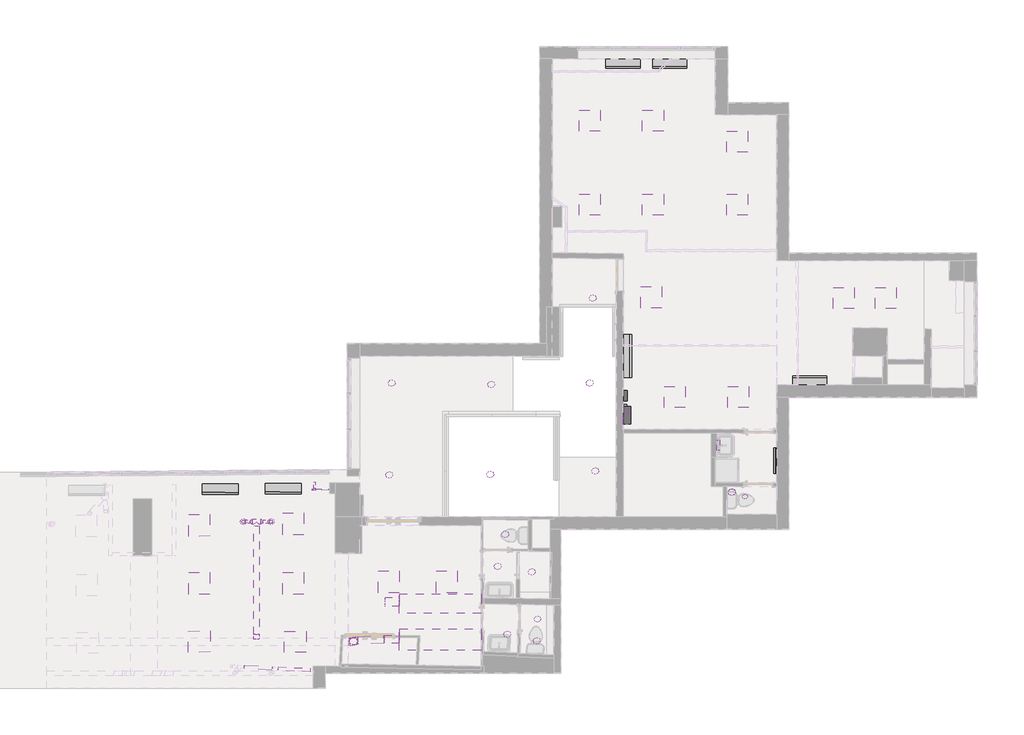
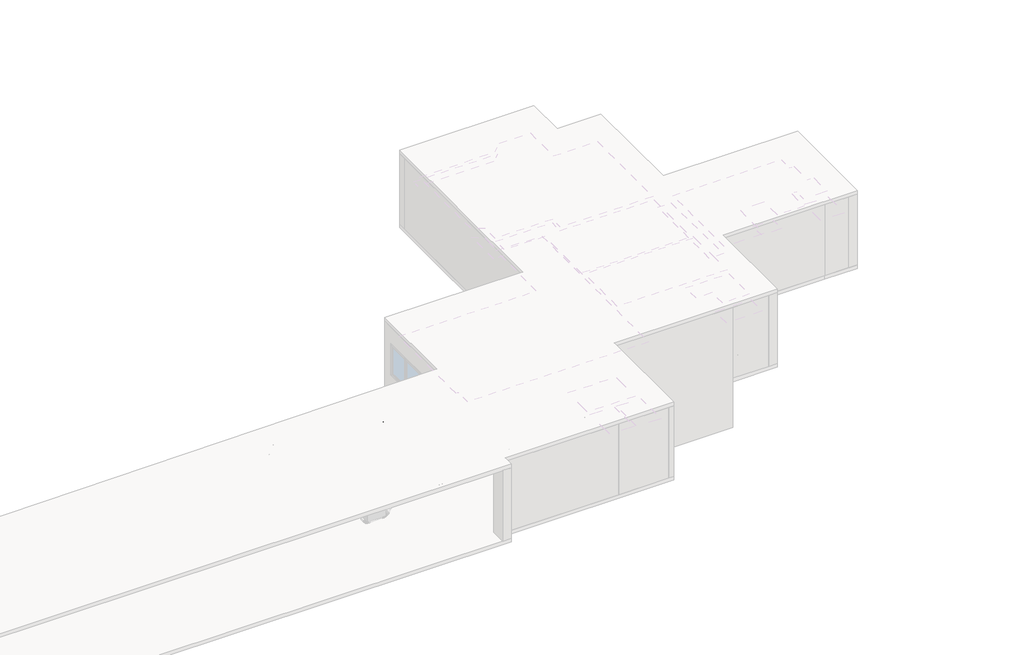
# One storey, part 8 of 8: 33 light fixtures, 11 duct fittings, 11 duct segments, 11 proxies, 5 pipe segments, 4 air terminals, 3 cable carrier segments, 1 pipe fitting.
"""IFC4 building model written with IfcOpenShell, lengths in millimetres."""

from ifc_helpers import new_model, si_unit, point, frame, frame_2d, origin, origin_with_axes, place, context, project, spatial, polyline, circle_curve, trimmed, segment, composite_curve, outline, extrude, transform, mapped, element, save
from components import air_terminal_3114c91a, air_terminal_94ab58d3, control_panel_control_panel_5b8699bc, control_panel_control_panel_d1b1cf04, control_panel_control_panel_d727b30a, control_panel_control_panel_2601ea38, proxy_125e8d1e, proxy_d10d1fc8, proxy_9773a5b9, proxy_5922f459, round_elbow_0_55_d_35647d84, round_elbow_0_55_d_550099a1, round_elbow_0_55_d_1c0d1807, round_elbow_0_55_d_5d434363, round_takeoff_standard_d0146e83, round_tee_standard_f7545f24, round_transition_length_standard_e66f7e9a, round_to_rectangular_transition_length_standard_5e19dc24, round_to_rectangular_transition_length_standard_a5040807, light_fixture_2_x2_2_lamp_120v_fb7acc95, light_fixture_654b8648, light_fixture_66915e3b, pendant_lighting_fixture_1x4_120v_cc67f8e6, pendant_lighting_fixture_1x4_120v_e23382af, pendant_lighting_fixture_1x4_120v_91103dd0, pendant_lighting_fixture_1x4_120v_f6e95e0c, pendant_lighting_fixture_1x4_120v_97e50c7d, strip_lighting_fixtures_4_1_lamp_120_3e8fa4b9, tee_generic_standard_3c2e5b31

model = new_model("IFC4")

# Units and contexts
model_context = context("Model", 3, world=origin())
ifc_project = project(units=[si_unit("LENGTHUNIT", "METRE", prefix="MILLI")], contexts=[model_context])

# Site, building, storey
site = spatial("IfcSite", under=ifc_project)
building = spatial("IfcBuilding", under=site)
storey = spatial("IfcBuildingStorey", under=building, Name="GFL", Elevation=0.0)

# Air terminals
placement = place(None, origin())
air_terminal_shape = air_terminal_3114c91a(model_context)
element("IfcAirTerminal", 1, ObjectType="Supply Diffuser - Circular - Round Neck - Ceiling Mounted : 6\" Face 4\" Neck", at=placement, inside=storey, context=model_context, shape_type="MappedRepresentation", body=[
    mapped(air_terminal_shape, transform((-21328.2848502, 5811.9921507, 2644.8917846), x_axis=(-1.0, 0.0, 0.0), y_axis=(0.0, 1.0, 0.0), z_axis=(0.0, 0.0, -1.0))),
])
element("IfcAirTerminal", 2, ObjectType="Supply Diffuser - Circular - Round Neck - Ceiling Mounted : 6\" Face 4\" Neck", at=placement, inside=storey, context=model_context, shape_type="MappedRepresentation", body=[
    mapped(air_terminal_shape, transform((-22122.0348502, 5811.9921507, 2625.8417846), x_axis=(-1.0, 0.0, 0.0), y_axis=(0.0, 1.0, 0.0), z_axis=(0.0, 0.0, -1.0))),
])
element("IfcAirTerminal", 3, ObjectType="Supply Diffuser - Circular - Round Neck - Ceiling Mounted : 6\" Face 4\" Neck", at=placement, inside=storey, context=model_context, shape_type="MappedRepresentation", body=[
    mapped(air_terminal_shape, transform((-13605.2135505, 2991.6837781, 2216.15), x_axis=(1.0, 0.0, 0.0), y_axis=(0.0, -1.0, 0.0), z_axis=(0.0, 0.0, -1.0))),
])
air_terminal_2_shape = air_terminal_94ab58d3(model_context)
element("IfcAirTerminal", 4, ObjectType="Supply Diffuser - Circular - Round Neck - Ceiling Mounted : 8\" Face 6\" Neck", at=placement, inside=storey, context=model_context, shape_type="MappedRepresentation", body=[
    mapped(air_terminal_2_shape, transform((-7978.3227955, 6669.4585448, 2101.85), x_axis=(1.0, 0.0, 0.0), y_axis=(0.0, -1.0, 0.0), z_axis=(0.0, 0.0, -1.0))),
])

# Proxies
control_panel_control_panel_shape = control_panel_control_panel_5b8699bc(model_context)
element("IfcBuildingElementProxy", 5, Name="Control Panel : Control Panel", ObjectType="Control Panel : Control Panel", at=placement, inside=storey, context=model_context, shape_type="MappedRepresentation", body=[
    mapped(control_panel_control_panel_shape, transform((-11129.9527068, 8902.2771063, 1236.3031897), x_axis=(0.0, 1.0, 0.0), y_axis=(0.0, 0.0, 1.0), z_axis=(1.0, 0.0, 0.0))),
])
control_panel_control_panel_2_shape = control_panel_control_panel_d1b1cf04(model_context)
element("IfcBuildingElementProxy", 6, Name="Control Panel : Control Panel", ObjectType="Control Panel : Control Panel", at=placement, inside=storey, context=model_context, shape_type="MappedRepresentation", body=[
    mapped(control_panel_control_panel_2_shape, transform((-11129.9527068, 8885.6782427, 1755.1708937), x_axis=(0.0, 1.0, 0.0), y_axis=(0.0, 0.0, 1.0), z_axis=(1.0, 0.0, 0.0))),
])
control_panel_control_panel_3_shape = control_panel_control_panel_d727b30a(model_context)
element("IfcBuildingElementProxy", 7, Name="Control Panel : Control Panel", ObjectType="Control Panel : Control Panel", at=placement, inside=storey, context=model_context, shape_type="MappedRepresentation", body=[
    mapped(control_panel_control_panel_3_shape, transform((-11129.9527068, 9124.3266247, 710.7804538), x_axis=(0.0, 1.0, 0.0), y_axis=(0.0, 0.0, 1.0), z_axis=(1.0, 0.0, 0.0))),
])
control_panel_control_panel_4_shape = control_panel_control_panel_2601ea38(model_context)
element("IfcBuildingElementProxy", 8, Name="Control Panel : Control Panel", ObjectType="Control Panel : Control Panel", at=placement, inside=storey, context=model_context, shape_type="MappedRepresentation", body=[
    mapped(control_panel_control_panel_4_shape, transform((-11129.9527068, 8710.9317299, 754.9987498), x_axis=(0.0, 1.0, 0.0), y_axis=(0.0, 0.0, 1.0), z_axis=(1.0, 0.0, 0.0))),
])
proxy_shape = proxy_125e8d1e(model_context)
element("IfcBuildingElementProxy", 9, Name="Radiator - Hydronic Fin Tube : 0-1/4\" NPT", ObjectType="Radiator - Hydronic Fin Tube : 0-1/4\" NPT", at=placement, inside=storey, context=model_context, shape_type="MappedRepresentation", body=[
    mapped(proxy_shape, transform((-5298.6227955, 9591.4950658, -304.8), x_axis=(1.0, 0.0, 0.0), y_axis=(0.0, 1.0, 0.0), z_axis=(0.0, 0.0, 1.0))),
])
element("IfcBuildingElementProxy", 10, Name="Radiator - Hydronic Fin Tube : 0-1/4\" NPT", ObjectType="Radiator - Hydronic Fin Tube : 0-1/4\" NPT", at=placement, inside=storey, context=model_context, shape_type="MappedRepresentation", body=[
    mapped(proxy_shape, transform((-10198.286381, 19408.1973103, -304.8), x_axis=(-1.0, 0.0, 0.0), y_axis=(0.0, -1.0, 0.0), z_axis=(0.0, 0.0, 1.0))),
])
element("IfcBuildingElementProxy", 11, Name="Radiator - Hydronic Fin Tube : 0-1/4\" NPT", ObjectType="Radiator - Hydronic Fin Tube : 0-1/4\" NPT", at=placement, inside=storey, context=model_context, shape_type="MappedRepresentation", body=[
    mapped(proxy_shape, transform((-11548.9291902, 19408.1973103, -304.8), x_axis=(-1.0, 0.0, 0.0), y_axis=(0.0, -1.0, 0.0), z_axis=(0.0, 0.0, 1.0))),
])
proxy_2_shape = proxy_d10d1fc8(model_context)
element("IfcBuildingElementProxy", 12, Name="Radiator - Hydronic Fin Tube : 0-1/6\" NPT", ObjectType="Radiator - Hydronic Fin Tube : 0-1/6\" NPT", at=placement, inside=storey, context=model_context, shape_type="MappedRepresentation", body=[
    mapped(proxy_2_shape, transform((-6505.1227955, 8127.0610317, -304.8), x_axis=(0.0, 1.0, 0.0), y_axis=(-1.0, 0.0, 0.0), z_axis=(0.0, 0.0, 1.0))),
])
proxy_3_shape = proxy_9773a5b9(model_context)
element("IfcBuildingElementProxy", 13, Name="Radiator - Hydronic Fin Tube : 0-3/4\" NPT", ObjectType="Radiator - Hydronic Fin Tube : 0-3/4\" NPT", at=placement, inside=storey, context=model_context, shape_type="MappedRepresentation", body=[
    mapped(proxy_3_shape, transform((-23196.4464876, 7100.1845836, -304.8), x_axis=(-0.9999588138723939, -0.009075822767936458, 0.0), y_axis=(0.009075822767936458, -0.9999588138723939, 0.0), z_axis=(0.0, 0.0, 1.0))),
])
element("IfcBuildingElementProxy", 14, Name="Radiator - Hydronic Fin Tube : 0-3/4\" NPT", ObjectType="Radiator - Hydronic Fin Tube : 0-3/4\" NPT", at=placement, inside=storey, context=model_context, shape_type="MappedRepresentation", body=[
    mapped(proxy_3_shape, transform((-21373.5403035, 7116.7296385, -304.8), x_axis=(-0.9999588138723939, -0.009075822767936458, 0.0), y_axis=(0.009075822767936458, -0.9999588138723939, 0.0), z_axis=(0.0, 0.0, 1.0))),
])
proxy_4_shape = proxy_5922f459(model_context)
element("IfcBuildingElementProxy", 15, Name="Radiator - Hydronic Fin Tube : 0-3/8\" NPT", ObjectType="Radiator - Hydronic Fin Tube : 0-3/8\" NPT", at=placement, inside=storey, context=model_context, shape_type="MappedRepresentation", body=[
    mapped(proxy_4_shape, transform((-11231.5527068, 10319.9857327, -304.8), x_axis=(0.0, -1.0, 0.0), y_axis=(1.0, 0.0, 0.0), z_axis=(0.0, 0.0, 1.0))),
])

# Cable carrier segments
element("IfcCableCarrierSegment", 16, ObjectType="Channel Cable Tray", at=placement, inside=storey, context=model_context, shape_type="SweptSolid", body=[
    extrude(outline(polyline([(-11079.1527068, 8800.8314072), (-11129.9527068, 8800.8314072), (-11129.9527068, 9029.4314072), (-11079.1527068, 9029.4314072), (-11079.1527068, 8800.8314072)])), frame((0.0, 0.0, 1983.7708937), z_axis=(0.0, 0.0, 1.0), x_axis=(1.0, 0.0, 0.0)), (0.0, 0.0, 1.0), 384.7791063),
])
element("IfcCableCarrierSegment", 17, ObjectType="Channel Cable Tray", at=placement, inside=storey, context=model_context, shape_type="SweptSolid", body=[
    extrude(outline(polyline([(-11002.9527068, 9310.3357327), (-11129.9527068, 9310.3357327), (-11129.9527068, 9615.1357327), (-11002.9527068, 9615.1357327), (-11002.9527068, 9310.3357327)])), frame((0.0, 0.0, -53.8960381), z_axis=(0.0, 0.0, 1.0), x_axis=(1.0, 0.0, 0.0)), (0.0, 0.0, 1.0), 2422.4460381),
])
element("IfcCableCarrierSegment", 18, ObjectType="Channel Cable Tray", at=placement, inside=storey, context=model_context, shape_type="SweptSolid", body=[
    extrude(outline(polyline([(-11079.1527068, 8800.8314072), (-11129.9527068, 8800.8314072), (-11129.9527068, 9029.4314072), (-11079.1527068, 9029.4314072), (-11079.1527068, 8800.8314072)])), origin_with_axes(), (0.0, 0.0, 1.0), 956.9031897),
])

# Duct fittings
round_elbow_0_55_d_shape = round_elbow_0_55_d_35647d84(model_context)
element("IfcDuctFitting", 19, ObjectType="Round Elbow : 0.55 D", at=placement, inside=storey, context=model_context, shape_type="MappedRepresentation", body=[
    mapped(round_elbow_0_55_d_shape, transform((-22122.0348502, 5811.9921507, 2890.0792846), x_axis=(-1.0, 0.0, 0.0), y_axis=(0.0, 0.0, -1.0), z_axis=(0.0, -1.0, 0.0))),
])
element("IfcDuctFitting", 20, ObjectType="Round Elbow : 0.55 D", at=placement, inside=storey, context=model_context, shape_type="MappedRepresentation", body=[
    mapped(round_elbow_0_55_d_shape, transform((-21328.2848502, 5811.9921507, 2890.0792846), x_axis=(1.0, 0.0, 0.0), y_axis=(0.0, 0.0, -1.0), z_axis=(0.0, 1.0, 0.0))),
])
round_elbow_0_55_d_2_shape = round_elbow_0_55_d_550099a1(model_context)
element("IfcDuctFitting", 21, ObjectType="Round Elbow : 0.55 D", at=placement, inside=storey, context=model_context, shape_type="MappedRepresentation", body=[
    mapped(round_elbow_0_55_d_2_shape, transform((-18936.6460319, 2329.8696846, 2890.0792846), x_axis=(1.0, 0.0, 0.0), y_axis=(0.0, 0.08715574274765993, -0.9961946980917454), z_axis=(0.0, 0.9961946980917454, 0.08715574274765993))),
])
round_elbow_0_55_d_3_shape = round_elbow_0_55_d_1c0d1807(model_context)
element("IfcDuctFitting", 22, ObjectType="Round Elbow : 0.55 D", at=placement, inside=storey, context=model_context, shape_type="MappedRepresentation", body=[
    mapped(round_elbow_0_55_d_3_shape, transform((-18936.6460319, 2361.9691447, 2523.1807772), x_axis=(0.0, 0.08715574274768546, -0.9961946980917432), y_axis=(0.9986399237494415, 0.05193894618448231, 0.004544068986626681), z_axis=(0.05213734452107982, -0.9948397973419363, -0.08703720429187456))),
])
round_elbow_0_55_d_4_shape = round_elbow_0_55_d_5d434363(model_context)
element("IfcDuctFitting", 23, ObjectType="Round Elbow : 0.55 D", at=placement, inside=storey, context=model_context, shape_type="MappedRepresentation", body=[
    mapped(round_elbow_0_55_d_4_shape, transform((-18048.8643755, 2408.4958098, 2523.1807772), x_axis=(-1.0, 0.0, 0.0), y_axis=(0.0, -1.0, 0.0), z_axis=(0.0, 0.0, 1.0))),
])
round_takeoff_standard_shape = round_takeoff_standard_d0146e83(model_context)
element("IfcDuctFitting", 24, ObjectType="Round Takeoff : Standard", at=placement, inside=storey, context=model_context, shape_type="MappedRepresentation", body=[
    mapped(round_takeoff_standard_shape, transform((-21747.3848502, 2444.1696846, 2890.0792846), x_axis=(0.0, 1.0, 0.0), y_axis=(-1.0, 0.0, 0.0), z_axis=(0.0, 0.0, 1.0))),
])
round_tee_standard_shape = round_tee_standard_f7545f24(model_context)
element("IfcDuctFitting", 25, ObjectType="Round Tee : Standard", at=placement, inside=storey, context=model_context, shape_type="MappedRepresentation", body=[
    mapped(round_tee_standard_shape, transform((-21747.3848502, 5811.9921507, 2890.0792846), x_axis=(1.0, 0.0, 0.0), y_axis=(0.0, 1.0, 0.0), z_axis=(0.0, 0.0, 1.0))),
])
round_transition_length_standard_shape = round_transition_length_standard_e66f7e9a(model_context)
element("IfcDuctFitting", 26, ObjectType="Round Transition - Length : Standard", at=placement, inside=storey, context=model_context, shape_type="MappedRepresentation", body=[
    mapped(round_transition_length_standard_shape, transform((-21874.3848502, 5811.9921507, 2890.0792846), x_axis=(-1.0, 0.0, 0.0), y_axis=(0.0, -1.0, 0.0), z_axis=(0.0, 0.0, 1.0))),
])
element("IfcDuctFitting", 27, ObjectType="Round Transition - Length : Standard", at=placement, inside=storey, context=model_context, shape_type="MappedRepresentation", body=[
    mapped(round_transition_length_standard_shape, transform((-21620.3848502, 5811.9921507, 2890.0792846), x_axis=(1.0, 0.0, 0.0), y_axis=(0.0, 1.0, 0.0), z_axis=(0.0, 0.0, 1.0))),
])
round_to_rectangular_transition_length_standard_shape = round_to_rectangular_transition_length_standard_5e19dc24(model_context)
element("IfcDuctFitting", 28, ObjectType="Round to Rectangular Transition - Length : Standard", at=placement, inside=storey, context=model_context, shape_type="MappedRepresentation", body=[
    mapped(round_to_rectangular_transition_length_standard_shape, transform((-17607.4220196, 2395.7958098, 2510.4807772), x_axis=(-1.0, 0.0, 0.0), y_axis=(0.0, -1.0, 0.0), z_axis=(0.0, 0.0, 1.0))),
])
round_to_rectangular_transition_length_standard_2_shape = round_to_rectangular_transition_length_standard_a5040807(model_context)
element("IfcDuctFitting", 29, ObjectType="Round to Rectangular Transition - Length : Standard", at=placement, inside=storey, context=model_context, shape_type="MappedRepresentation", body=[
    mapped(round_to_rectangular_transition_length_standard_2_shape, transform((-17612.4821759, 3437.1958098, 2504.1307772), x_axis=(-1.0, 0.0, 0.0), y_axis=(0.0, -1.0, 0.0), z_axis=(0.0, 0.0, 1.0))),
])

# Duct segments
element("IfcDuctSegment", 30, ObjectType="Default", at=placement, inside=storey, context=model_context, shape_type="SweptSolid", body=[
    extrude(outline(polyline([(-17607.4220196, 2090.9958098), (-17607.4220196, 2700.5958098), (-15241.7145713, 2700.5958098), (-15241.7145713, 2090.9958098), (-17607.4220196, 2090.9958098)])), frame((0.0, 0.0, 2345.3807772), z_axis=(0.0, 0.0, 1.0), x_axis=(1.0, 0.0, 0.0)), (0.0, 0.0, 1.0), 330.2),
])
element("IfcDuctSegment", 31, ObjectType="Default", at=placement, inside=storey, context=model_context, shape_type="SweptSolid", body=[
    extrude(outline(polyline([(-17612.4821759, 3157.7958098), (-17612.4821759, 3716.5958098), (-15241.7145713, 3716.5958098), (-15241.7145713, 3157.7958098), (-17612.4821759, 3157.7958098)])), frame((0.0, 0.0, 2339.0307772), z_axis=(0.0, 0.0, 1.0), x_axis=(1.0, 0.0, 0.0)), (0.0, 0.0, 1.0), 330.2),
])
element("IfcDuctSegment", 32, ObjectType="Default_Tap", at=placement, inside=storey, context=model_context, shape_type="SweptSolid", body=[
    extrude(outline(composite_curve([segment(trimmed(circle_curve(frame_2d((2890.0792846, -21747.3848502)), 76.2), [point((2890.0792846, -21671.1848502))], [point((2966.2792846, -21747.3848502))], False, "CARTESIAN"), True, "CONTINUOUS"), segment(trimmed(circle_curve(frame_2d((2890.0792846, -21747.3848502)), 76.2), [point((2966.2792846, -21747.3848502))], [point((2890.0792846, -21823.5848502))], False, "CARTESIAN"), True, "CONTINUOUS"), segment(trimmed(circle_curve(frame_2d((2890.0792846, -21747.3848502)), 76.2), [point((2890.0792846, -21823.5848502))], [point((2813.8792846, -21747.3848502))], False, "CARTESIAN"), True, "CONTINUOUS"), segment(trimmed(circle_curve(frame_2d((2890.0792846, -21747.3848502)), 76.2), [point((2813.8792846, -21747.3848502))], [point((2890.0792846, -21671.1848502))], False, "CARTESIAN"), True, "CONTINUOUS")], self_intersect=False)), frame((0.0, 2545.7696846, 0.0), z_axis=(0.0, 1.0, 0.0), x_axis=(0.0, 0.0, 1.0)), (0.0, 0.0, 1.0), 3139.222466),
])
element("IfcDuctSegment", 33, ObjectType="Default_Tap", at=placement, inside=storey, context=model_context, shape_type="SweptSolid", body=[
    extrude(outline(composite_curve([segment(trimmed(circle_curve(frame_2d((5811.9921507, 2890.0792846)), 50.8), [point((5862.7921507, 2890.0792846))], [point((5811.9921507, 2839.2792846))], False, "CARTESIAN"), True, "CONTINUOUS"), segment(trimmed(circle_curve(frame_2d((5811.9921507, 2890.0792846)), 50.8), [point((5811.9921507, 2839.2792846))], [point((5761.1921507, 2890.0792846))], False, "CARTESIAN"), True, "CONTINUOUS"), segment(trimmed(circle_curve(frame_2d((5811.9921507, 2890.0792846)), 50.8), [point((5761.1921507, 2890.0792846))], [point((5811.9921507, 2940.8792846))], False, "CARTESIAN"), True, "CONTINUOUS"), segment(trimmed(circle_curve(frame_2d((5811.9921507, 2890.0792846)), 50.8), [point((5811.9921507, 2940.8792846))], [point((5862.7921507, 2890.0792846))], False, "CARTESIAN"), True, "CONTINUOUS")], self_intersect=False)), frame((-22066.1548502, 0.0, 0.0), z_axis=(1.0, 0.0, 0.0), x_axis=(0.0, 1.0, 0.0)), (0.0, 0.0, 1.0), 140.97),
])
element("IfcDuctSegment", 34, ObjectType="Default_Tap", at=placement, inside=storey, context=model_context, shape_type="SweptSolid", body=[
    extrude(outline(composite_curve([segment(trimmed(circle_curve(frame_2d((-22122.0348502, 5811.9921507)), 50.8), [point((-22122.0348502, 5862.7921507))], [point((-22071.2348502, 5811.9921507))], False, "CARTESIAN"), True, "CONTINUOUS"), segment(trimmed(circle_curve(frame_2d((-22122.0348502, 5811.9921507)), 50.8), [point((-22071.2348502, 5811.9921507))], [point((-22122.0348502, 5761.1921507))], False, "CARTESIAN"), True, "CONTINUOUS"), segment(trimmed(circle_curve(frame_2d((-22122.0348502, 5811.9921507)), 50.8), [point((-22122.0348502, 5761.1921507))], [point((-22172.8348502, 5811.9921507))], False, "CARTESIAN"), True, "CONTINUOUS"), segment(trimmed(circle_curve(frame_2d((-22122.0348502, 5811.9921507)), 50.8), [point((-22172.8348502, 5811.9921507))], [point((-22122.0348502, 5862.7921507))], False, "CARTESIAN"), True, "CONTINUOUS")], self_intersect=False)), frame((0.0, 0.0, 2702.0417846), z_axis=(0.0, 0.0, 1.0), x_axis=(1.0, 0.0, 0.0)), (0.0, 0.0, 1.0), 132.1575),
])
element("IfcDuctSegment", 35, ObjectType="Default_Tap", at=placement, inside=storey, context=model_context, shape_type="SweptSolid", body=[
    extrude(outline(composite_curve([segment(trimmed(circle_curve(frame_2d((0.0, -114.3)), 114.3), [point((114.3, -114.3))], [point((0.0, -228.6))], False, "CARTESIAN"), True, "CONTINUOUS"), segment(trimmed(circle_curve(frame_2d((0.0, -114.3)), 114.3), [point((0.0, -228.6))], [point((-114.3, -114.3))], False, "CARTESIAN"), True, "CONTINUOUS"), segment(trimmed(circle_curve(frame_2d((0.0, -114.3)), 114.3), [point((-114.3, -114.3))], [point((0.0, 0.0))], False, "CARTESIAN"), True, "CONTINUOUS"), segment(trimmed(circle_curve(frame_2d((0.0, -114.3)), 114.3), [point((0.0, 0.0))], [point((114.3, -114.3))], False, "CARTESIAN"), True, "CONTINUOUS")], self_intersect=False)), frame((-18936.6460319, 2464.9259777, 2657.8242153), z_axis=(0.0, -0.08715574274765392, 0.996194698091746), x_axis=(1.0, 0.0, 0.0)), (0.0, 0.0, 1.0), 117.4122002),
])
element("IfcDuctSegment", 36, ObjectType="Default_Tap", at=placement, inside=storey, context=model_context, shape_type="SweptSolid", body=[
    extrude(outline(composite_curve([segment(trimmed(circle_curve(frame_2d((0.0, 114.3)), 114.3), [point((114.3, 114.3))], [point((0.0, 0.0))], False, "CARTESIAN"), True, "CONTINUOUS"), segment(trimmed(circle_curve(frame_2d((0.0, 114.3)), 114.3), [point((0.0, 0.0))], [point((-114.3, 114.3))], False, "CARTESIAN"), True, "CONTINUOUS"), segment(trimmed(circle_curve(frame_2d((0.0, 114.3)), 114.3), [point((-114.3, 114.3))], [point((0.0, 228.6))], False, "CARTESIAN"), True, "CONTINUOUS"), segment(trimmed(circle_curve(frame_2d((0.0, 114.3)), 114.3), [point((0.0, 228.6))], [point((114.3, 114.3))], False, "CARTESIAN"), True, "CONTINUOUS")], self_intersect=False)), frame((-18811.6597565, 2368.5193978, 2637.4807772), z_axis=(0.9986295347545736, 0.05233595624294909, 0.0), x_axis=(0.05233595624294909, -0.9986295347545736, 0.0)), (0.0, 0.0, 1.0), 760.5498442),
])
element("IfcDuctSegment", 37, ObjectType="Default_Tap", at=placement, inside=storey, context=model_context, shape_type="SweptSolid", body=[
    extrude(outline(composite_curve([segment(trimmed(circle_curve(frame_2d((2408.4958098, 2523.1807772)), 114.3), [point((2294.1958098, 2523.1807772))], [point((2408.4958098, 2637.4807772))], False, "CARTESIAN"), True, "CONTINUOUS"), segment(trimmed(circle_curve(frame_2d((2408.4958098, 2523.1807772)), 114.3), [point((2408.4958098, 2637.4807772))], [point((2522.7958098, 2523.1807772))], False, "CARTESIAN"), True, "CONTINUOUS"), segment(trimmed(circle_curve(frame_2d((2408.4958098, 2523.1807772)), 114.3), [point((2522.7958098, 2523.1807772))], [point((2408.4958098, 2408.8807772))], False, "CARTESIAN"), True, "CONTINUOUS"), segment(trimmed(circle_curve(frame_2d((2408.4958098, 2523.1807772)), 114.3), [point((2408.4958098, 2408.8807772))], [point((2294.1958098, 2523.1807772))], False, "CARTESIAN"), True, "CONTINUOUS")], self_intersect=False)), frame((-18045.5720196, 0.0, 0.0), z_axis=(1.0, 0.0, 0.0), x_axis=(0.0, 1.0, 0.0)), (0.0, 0.0, 1.0), 433.0898437),
])
element("IfcDuctSegment", 38, ObjectType="Default_Tap", at=placement, inside=storey, context=model_context, shape_type="SweptSolid", body=[
    extrude(outline(composite_curve([segment(trimmed(circle_curve(frame_2d((3487.9958098, 2478.7307772)), 127.0), [point((3360.9958098, 2478.7307772))], [point((3487.9958098, 2605.7307772))], False, "CARTESIAN"), True, "CONTINUOUS"), segment(trimmed(circle_curve(frame_2d((3487.9958098, 2478.7307772)), 127.0), [point((3487.9958098, 2605.7307772))], [point((3614.9958098, 2478.7307772))], False, "CARTESIAN"), True, "CONTINUOUS"), segment(trimmed(circle_curve(frame_2d((3487.9958098, 2478.7307772)), 127.0), [point((3614.9958098, 2478.7307772))], [point((3487.9958098, 2351.7307772))], False, "CARTESIAN"), True, "CONTINUOUS"), segment(trimmed(circle_curve(frame_2d((3487.9958098, 2478.7307772)), 127.0), [point((3487.9958098, 2351.7307772))], [point((3360.9958098, 2478.7307772))], False, "CARTESIAN"), True, "CONTINUOUS")], self_intersect=False)), frame((-18021.104733, 0.0, 0.0), z_axis=(1.0, 0.0, 0.0), x_axis=(0.0, 1.0, 0.0)), (0.0, 0.0, 1.0), 403.5624009),
])
element("IfcDuctSegment", 39, ObjectType="Default_Tee", at=placement, inside=storey, context=model_context, shape_type="SweptSolid", body=[
    extrude(outline(composite_curve([segment(trimmed(circle_curve(frame_2d((5811.9921507, 2890.0792846)), 50.8), [point((5761.1921507, 2890.0792846))], [point((5811.9921507, 2940.8792846))], False, "CARTESIAN"), True, "CONTINUOUS"), segment(trimmed(circle_curve(frame_2d((5811.9921507, 2890.0792846)), 50.8), [point((5811.9921507, 2940.8792846))], [point((5862.7921507, 2890.0792846))], False, "CARTESIAN"), True, "CONTINUOUS"), segment(trimmed(circle_curve(frame_2d((5811.9921507, 2890.0792846)), 50.8), [point((5862.7921507, 2890.0792846))], [point((5811.9921507, 2839.2792846))], False, "CARTESIAN"), True, "CONTINUOUS"), segment(trimmed(circle_curve(frame_2d((5811.9921507, 2890.0792846)), 50.8), [point((5811.9921507, 2839.2792846))], [point((5761.1921507, 2890.0792846))], False, "CARTESIAN"), True, "CONTINUOUS")], self_intersect=False)), frame((-21569.5848502, 0.0, 0.0), z_axis=(1.0, 0.0, 0.0), x_axis=(0.0, 1.0, 0.0)), (0.0, 0.0, 1.0), 185.42),
])
element("IfcDuctSegment", 40, ObjectType="Default_Tee", at=placement, inside=storey, context=model_context, shape_type="SweptSolid", body=[
    extrude(outline(composite_curve([segment(trimmed(circle_curve(frame_2d((-21328.2848502, 5811.9921507)), 50.8), [point((-21328.2848502, 5862.7921507))], [point((-21277.4848502, 5811.9921507))], False, "CARTESIAN"), True, "CONTINUOUS"), segment(trimmed(circle_curve(frame_2d((-21328.2848502, 5811.9921507)), 50.8), [point((-21277.4848502, 5811.9921507))], [point((-21328.2848502, 5761.1921507))], False, "CARTESIAN"), True, "CONTINUOUS"), segment(trimmed(circle_curve(frame_2d((-21328.2848502, 5811.9921507)), 50.8), [point((-21328.2848502, 5761.1921507))], [point((-21379.0848502, 5811.9921507))], False, "CARTESIAN"), True, "CONTINUOUS"), segment(trimmed(circle_curve(frame_2d((-21328.2848502, 5811.9921507)), 50.8), [point((-21379.0848502, 5811.9921507))], [point((-21328.2848502, 5862.7921507))], False, "CARTESIAN"), True, "CONTINUOUS")], self_intersect=False)), frame((0.0, 0.0, 2721.0917846), z_axis=(0.0, 0.0, 1.0), x_axis=(1.0, 0.0, 0.0)), (0.0, 0.0, 1.0), 113.1075),
])

# Light fixtures
light_fixture_2_x2_2_lamp_120v_shape = light_fixture_2_x2_2_lamp_120v_fb7acc95(model_context)
element("IfcLightFixture", 41, ObjectType="Recessed Volumetric Light : 2'x2'(2 Lamp) - 120V", at=placement, inside=storey, context=model_context, shape_type="MappedRepresentation", body=[
    mapped(light_fixture_2_x2_2_lamp_120v_shape, transform((-12090.586381, 17137.3915215, 2349.5), x_axis=(1.0, 0.0, 0.0), y_axis=(0.0, -1.0, 0.0), z_axis=(0.0, 0.0, -1.0))),
])
element("IfcLightFixture", 42, ObjectType="Recessed Volumetric Light : 2'x2'(2 Lamp) - 120V", at=placement, inside=storey, context=model_context, shape_type="MappedRepresentation", body=[
    mapped(light_fixture_2_x2_2_lamp_120v_shape, transform((-10261.786381, 17137.3915215, 2349.5), x_axis=(1.0, 0.0, 0.0), y_axis=(0.0, -1.0, 0.0), z_axis=(0.0, 0.0, -1.0))),
])
element("IfcLightFixture", 43, ObjectType="Recessed Volumetric Light : 2'x2'(2 Lamp) - 120V", at=placement, inside=storey, context=model_context, shape_type="MappedRepresentation", body=[
    mapped(light_fixture_2_x2_2_lamp_120v_shape, transform((-10261.786381, 14698.9915215, 2349.5), x_axis=(1.0, 0.0, 0.0), y_axis=(0.0, -1.0, 0.0), z_axis=(0.0, 0.0, -1.0))),
])
element("IfcLightFixture", 44, ObjectType="Recessed Volumetric Light : 2'x2'(2 Lamp) - 120V", at=placement, inside=storey, context=model_context, shape_type="MappedRepresentation", body=[
    mapped(light_fixture_2_x2_2_lamp_120v_shape, transform((-12090.586381, 14698.9915215, 2349.5), x_axis=(1.0, 0.0, 0.0), y_axis=(0.0, -1.0, 0.0), z_axis=(0.0, 0.0, -1.0))),
])
element("IfcLightFixture", 45, ObjectType="Recessed Volumetric Light : 2'x2'(2 Lamp) - 120V", at=placement, inside=storey, context=model_context, shape_type="MappedRepresentation", body=[
    mapped(light_fixture_2_x2_2_lamp_120v_shape, transform((-7823.386381, 14698.9915215, 2349.5), x_axis=(1.0, 0.0, 0.0), y_axis=(0.0, -1.0, 0.0), z_axis=(0.0, 0.0, -1.0))),
])
element("IfcLightFixture", 46, ObjectType="Recessed Volumetric Light : 2'x2'(2 Lamp) - 120V", at=placement, inside=storey, context=model_context, shape_type="MappedRepresentation", body=[
    mapped(light_fixture_2_x2_2_lamp_120v_shape, transform((-7823.386381, 16527.7915215, 2349.5), x_axis=(1.0, 0.0, 0.0), y_axis=(0.0, -1.0, 0.0), z_axis=(0.0, 0.0, -1.0))),
])
element("IfcLightFixture", 47, ObjectType="Recessed Volumetric Light : 2'x2'(2 Lamp) - 120V", at=placement, inside=storey, context=model_context, shape_type="MappedRepresentation", body=[
    mapped(light_fixture_2_x2_2_lamp_120v_shape, transform((-7796.9926705, 9127.9450658, 2368.55), x_axis=(1.0, 0.0, 0.0), y_axis=(0.0, -1.0, 0.0), z_axis=(0.0, 0.0, -1.0))),
])
element("IfcLightFixture", 48, ObjectType="Recessed Volumetric Light : 2'x2'(2 Lamp) - 120V", at=placement, inside=storey, context=model_context, shape_type="MappedRepresentation", body=[
    mapped(light_fixture_2_x2_2_lamp_120v_shape, transform((-9625.7926705, 9127.9450658, 2368.55), x_axis=(1.0, 0.0, 0.0), y_axis=(0.0, -1.0, 0.0), z_axis=(0.0, 0.0, -1.0))),
])
element("IfcLightFixture", 49, ObjectType="Recessed Volumetric Light : 2'x2'(2 Lamp) - 120V", at=placement, inside=storey, context=model_context, shape_type="MappedRepresentation", body=[
    mapped(light_fixture_2_x2_2_lamp_120v_shape, transform((-10311.5926705, 12012.7887669, 2260.6), x_axis=(1.0, 0.0, 0.0), y_axis=(0.0, -1.0, 0.0), z_axis=(0.0, 0.0, -1.0))),
])
element("IfcLightFixture", 50, ObjectType="Recessed Volumetric Light : 2'x2'(2 Lamp) - 120V", at=placement, inside=storey, context=model_context, shape_type="MappedRepresentation", body=[
    mapped(light_fixture_2_x2_2_lamp_120v_shape, transform((-3522.9208926, 11984.817033, 2374.9), x_axis=(1.0, 0.0, 0.0), y_axis=(0.0, -1.0, 0.0), z_axis=(0.0, 0.0, -1.0))),
])
element("IfcLightFixture", 51, ObjectType="Recessed Volumetric Light : 2'x2'(2 Lamp) - 120V", at=placement, inside=storey, context=model_context, shape_type="MappedRepresentation", body=[
    mapped(light_fixture_2_x2_2_lamp_120v_shape, transform((-4742.1208926, 11984.817033, 2374.9), x_axis=(1.0, 0.0, 0.0), y_axis=(0.0, -1.0, 0.0), z_axis=(0.0, 0.0, -1.0))),
])
light_fixture_shape = light_fixture_654b8648(model_context)
element("IfcLightFixture", 52, ObjectType="Downlight - Recessed Can : 6\" Incandescent - 120V", at=placement, inside=storey, context=model_context, shape_type="MappedRepresentation", body=[
    mapped(light_fixture_shape, transform((-7597.3227955, 6542.4585448, 2101.85), x_axis=(1.0, 0.0, 0.0), y_axis=(0.0, -1.0, 0.0), z_axis=(0.0, 0.0, -1.0))),
])
light_fixture_2_shape = light_fixture_66915e3b(model_context)
element("IfcLightFixture", 53, ObjectType="Downlight - Recessed Can : 8\" Incandescent - 120V", at=placement, inside=storey, context=model_context, shape_type="MappedRepresentation", body=[
    mapped(light_fixture_2_shape, transform((-14946.1791902, 9794.6995008, 2457.45), x_axis=(1.0, 0.0, 0.0), y_axis=(0.0, -1.0, 0.0), z_axis=(0.0, 0.0, -1.0))),
])
element("IfcLightFixture", 54, ObjectType="Downlight - Recessed Can : 8\" Incandescent - 120V", at=placement, inside=storey, context=model_context, shape_type="MappedRepresentation", body=[
    mapped(light_fixture_2_shape, transform((-12095.1527068, 9837.3857327, 2457.45), x_axis=(1.0, 0.0, 0.0), y_axis=(0.0, -1.0, 0.0), z_axis=(0.0, 0.0, -1.0))),
])
element("IfcLightFixture", 55, ObjectType="Downlight - Recessed Can : 8\" Incandescent - 120V", at=placement, inside=storey, context=model_context, shape_type="MappedRepresentation", body=[
    mapped(light_fixture_2_shape, transform((-14977.8697117, 7181.8568671, 2457.45), x_axis=(1.0, 0.0, 0.0), y_axis=(0.0, -1.0, 0.0), z_axis=(0.0, 0.0, -1.0))),
])
element("IfcLightFixture", 56, ObjectType="Downlight - Recessed Can : 8\" Incandescent - 120V", at=placement, inside=storey, context=model_context, shape_type="MappedRepresentation", body=[
    mapped(light_fixture_2_shape, transform((-17899.2008133, 7171.391239, 2457.45), x_axis=(1.0, 0.0, 0.0), y_axis=(0.0, -1.0, 0.0), z_axis=(0.0, 0.0, -1.0))),
])
element("IfcLightFixture", 57, ObjectType="Downlight - Recessed Can : 8\" Incandescent - 120V", at=placement, inside=storey, context=model_context, shape_type="MappedRepresentation", body=[
    mapped(light_fixture_2_shape, transform((-17829.4493213, 9826.5149533, 2457.45), x_axis=(1.0, 0.0, 0.0), y_axis=(0.0, -1.0, 0.0), z_axis=(0.0, 0.0, -1.0))),
])
element("IfcLightFixture", 58, ObjectType="Downlight - Recessed Can : 8\" Incandescent - 120V", at=placement, inside=storey, context=model_context, shape_type="MappedRepresentation", body=[
    mapped(light_fixture_2_shape, transform((-11928.1490846, 7279.2891407, 2457.45), x_axis=(1.0, 0.0, 0.0), y_axis=(0.0, -1.0, 0.0), z_axis=(0.0, 0.0, -1.0))),
])
element("IfcLightFixture", 59, ObjectType="Downlight - Recessed Can : 8\" Incandescent - 120V", at=placement, inside=storey, context=model_context, shape_type="MappedRepresentation", body=[
    mapped(light_fixture_2_shape, transform((-12012.6027068, 12291.0532427, 2457.45), x_axis=(1.0, 0.0, 0.0), y_axis=(0.0, -1.0, 0.0), z_axis=(0.0, 0.0, -1.0))),
])
element("IfcLightFixture", 60, ObjectType="Downlight - Recessed Can : 8\" Incandescent - 120V", at=placement, inside=storey, context=model_context, shape_type="MappedRepresentation", body=[
    mapped(light_fixture_2_shape, transform((-13628.8145713, 2361.0954184, 2216.15), x_axis=(1.0, 0.0, 0.0), y_axis=(0.0, -1.0, 0.0), z_axis=(0.0, 0.0, -1.0))),
])
element("IfcLightFixture", 61, ObjectType="Downlight - Recessed Can : 8\" Incandescent - 120V", at=placement, inside=storey, context=model_context, shape_type="MappedRepresentation", body=[
    mapped(light_fixture_2_shape, transform((-14764.1249503, 4518.6827389, 2222.5), x_axis=(1.0, 0.0, 0.0), y_axis=(0.0, -1.0, 0.0), z_axis=(0.0, 0.0, -1.0))),
])
element("IfcLightFixture", 62, ObjectType="Downlight - Recessed Can : 8\" Incandescent - 120V", at=placement, inside=storey, context=model_context, shape_type="MappedRepresentation", body=[
    mapped(light_fixture_2_shape, transform((-14477.9731047, 2551.5954184, 2216.15), x_axis=(1.0, 0.0, 0.0), y_axis=(0.0, -1.0, 0.0), z_axis=(0.0, 0.0, -1.0))),
])
element("IfcLightFixture", 63, ObjectType="Downlight - Recessed Can : 8\" Incandescent - 120V", at=placement, inside=storey, context=model_context, shape_type="MappedRepresentation", body=[
    mapped(light_fixture_2_shape, transform((-13768.5145713, 4354.9954184, 2222.5), x_axis=(1.0, 0.0, 0.0), y_axis=(0.0, -1.0, 0.0), z_axis=(0.0, 0.0, -1.0))),
])
element("IfcLightFixture", 64, ObjectType="Downlight - Recessed Can : 8\" Incandescent - 120V", at=placement, inside=storey, context=model_context, shape_type="MappedRepresentation", body=[
    mapped(light_fixture_2_shape, transform((-14547.2524396, 5442.0840751, 2222.5), x_axis=(1.0, 0.0, 0.0), y_axis=(0.0, -1.0, 0.0), z_axis=(0.0, 0.0, -1.0))),
])
pendant_lighting_fixture_1x4_120v_shape = pendant_lighting_fixture_1x4_120v_cc67f8e6(model_context)
element("IfcLightFixture", 65, ObjectType="Pendant Lighting Fixture : 1x4 - 120V", at=placement, inside=storey, context=model_context, shape_type="MappedRepresentation", body=[
    mapped(pendant_lighting_fixture_1x4_120v_shape, transform((-23510.4498706, 2641.9817508, 3028.95), x_axis=(0.009871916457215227, -0.9999512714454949, 0.0), y_axis=(-0.9999512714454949, -0.009871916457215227, 0.0), z_axis=(0.0, 0.0, -1.0))),
])
element("IfcLightFixture", 66, ObjectType="Pendant Lighting Fixture : 1x4 - 120V", at=placement, inside=storey, context=model_context, shape_type="MappedRepresentation", body=[
    mapped(pendant_lighting_fixture_1x4_120v_shape, transform((-23708.3501518, 3919.7194427, 3028.95), x_axis=(0.9999512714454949, 0.00987191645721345, 0.0), y_axis=(0.00987191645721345, -0.9999512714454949, 0.0), z_axis=(0.0, 0.0, -1.0))),
])
element("IfcLightFixture", 67, ObjectType="Pendant Lighting Fixture : 1x4 - 120V", at=placement, inside=storey, context=model_context, shape_type="MappedRepresentation", body=[
    mapped(pendant_lighting_fixture_1x4_120v_shape, transform((-20731.041397, 2637.5616073, 3028.95), x_axis=(0.009871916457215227, -0.9999512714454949, 0.0), y_axis=(-0.9999512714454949, -0.009871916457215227, 0.0), z_axis=(0.0, 0.0, -1.0))),
])
pendant_lighting_fixture_1x4_120v_2_shape = pendant_lighting_fixture_1x4_120v_e23382af(model_context)
element("IfcLightFixture", 68, ObjectType="Pendant Lighting Fixture : 1x4 - 120V", at=placement, inside=storey, context=model_context, shape_type="MappedRepresentation", body=[
    mapped(pendant_lighting_fixture_1x4_120v_2_shape, transform((-17605.9449113, 4165.6567557, 2647.95), x_axis=(-1.0, 0.0, 0.0), y_axis=(0.0, 1.0, 0.0), z_axis=(0.0, 0.0, -1.0))),
])
element("IfcLightFixture", 69, ObjectType="Pendant Lighting Fixture : 1x4 - 120V", at=placement, inside=storey, context=model_context, shape_type="MappedRepresentation", body=[
    mapped(pendant_lighting_fixture_1x4_120v_2_shape, transform((-15934.3463478, 4171.164594, 2647.95), x_axis=(-1.0, 0.0, 0.0), y_axis=(0.0, 1.0, 0.0), z_axis=(0.0, 0.0, -1.0))),
])
pendant_lighting_fixture_1x4_120v_3_shape = pendant_lighting_fixture_1x4_120v_91103dd0(model_context)
element("IfcLightFixture", 70, ObjectType="Pendant Lighting Fixture : 1x4 - 120V", at=placement, inside=storey, context=model_context, shape_type="MappedRepresentation", body=[
    mapped(pendant_lighting_fixture_1x4_120v_3_shape, transform((-23711.666762, 5606.3971015, 3028.95), x_axis=(0.9999512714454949, 0.00987191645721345, 0.0), y_axis=(0.00987191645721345, -0.9999512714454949, 0.0), z_axis=(0.0, 0.0, -1.0))),
])
pendant_lighting_fixture_1x4_120v_4_shape = pendant_lighting_fixture_1x4_120v_f6e95e0c(model_context)
element("IfcLightFixture", 71, ObjectType="Pendant Lighting Fixture : 1x4 - 120V", at=placement, inside=storey, context=model_context, shape_type="MappedRepresentation", body=[
    mapped(pendant_lighting_fixture_1x4_120v_4_shape, transform((-20987.3001518, 5645.9694427, 3028.95), x_axis=(0.9999512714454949, 0.00987191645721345, 0.0), y_axis=(0.00987191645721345, -0.9999512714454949, 0.0), z_axis=(0.0, 0.0, -1.0))),
])
pendant_lighting_fixture_1x4_120v_5_shape = pendant_lighting_fixture_1x4_120v_97e50c7d(model_context)
element("IfcLightFixture", 72, ObjectType="Pendant Lighting Fixture : 1x4 - 120V", at=placement, inside=storey, context=model_context, shape_type="MappedRepresentation", body=[
    mapped(pendant_lighting_fixture_1x4_120v_5_shape, transform((-20983.5518348, 3919.5896883, 3028.95), x_axis=(0.9999512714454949, 0.00987191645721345, 0.0), y_axis=(0.00987191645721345, -0.9999512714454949, 0.0), z_axis=(0.0, 0.0, -1.0))),
])
strip_lighting_fixtures_4_1_lamp_120_shape = strip_lighting_fixtures_4_1_lamp_120_3e8fa4b9(model_context)
element("IfcLightFixture", 73, ObjectType="Strip Lighting Fixtures : 4' 1 Lamp - 120", at=placement, inside=storey, context=model_context, shape_type="MappedRepresentation", body=[
    mapped(strip_lighting_fixtures_4_1_lamp_120_shape, transform((-8421.1230269, 7883.5994366, 1993.4682134), x_axis=(0.0, 1.0, 0.0), y_axis=(0.0, 0.0, 1.0), z_axis=(1.0, 0.0, 0.0))),
])

# Pipe fitting
tee_generic_standard_shape = tee_generic_standard_3c2e5b31(model_context)
element("IfcPipeFitting", 74, ObjectType="Tee - Generic : Standard", at=placement, inside=storey, context=model_context, shape_type="MappedRepresentation", body=[
    mapped(tee_generic_standard_shape, transform((-20066.5272616, 6744.0673049, 2664.3551931), x_axis=(0.999951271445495, 0.009871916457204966, 0.0), y_axis=(0.009871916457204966, -0.999951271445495, 0.0), z_axis=(0.0, 0.0, -1.0))),
])

# Pipe segments
element("IfcPipeSegment", 75, ObjectType="Default", at=placement, inside=storey, context=model_context, shape_type="SweptSolid", body=[
    extrude(outline(composite_curve([segment(trimmed(circle_curve(frame_2d((0.0, 50.8)), 50.8), [point((46.1965762, 71.9309334))], [point((21.1309333, 4.6034238))], False, "CARTESIAN"), True, "CONTINUOUS"), segment(trimmed(circle_curve(frame_2d((0.0, 50.8)), 50.8), [point((21.1309333, 4.6034238))], [point((-46.1965762, 29.6690667))], False, "CARTESIAN"), True, "CONTINUOUS"), segment(trimmed(circle_curve(frame_2d((0.0, 50.8)), 50.8), [point((-46.1965762, 29.6690667))], [point((-21.1309334, 96.9965762))], False, "CARTESIAN"), True, "CONTINUOUS"), segment(trimmed(circle_curve(frame_2d((0.0, 50.8)), 50.8), [point((-21.1309334, 96.9965762))], [point((46.1965762, 71.9309334))], False, "CARTESIAN"), True, "CONTINUOUS")], self_intersect=False)), frame((-20194.0627434, 1494.139683, 2920.0947334), z_axis=(-0.9991207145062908, 0.03812100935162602, 0.017452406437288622), x_axis=(0.04192609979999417, 0.9084434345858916, 0.41589990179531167)), (0.0, 0.0, 1.0), 920.4108089),
])
element("IfcPipeSegment", 76, ObjectType="Default", at=placement, inside=storey, context=model_context, shape_type="SweptSolid", body=[
    extrude(outline(composite_curve([segment(trimmed(circle_curve(frame_2d((0.0, 50.8)), 50.8), [point((48.1977593, 66.8504203))], [point((16.0504203, 2.6022406))], False, "CARTESIAN"), True, "CONTINUOUS"), segment(trimmed(circle_curve(frame_2d((0.0, 50.8)), 50.8), [point((16.0504203, 2.6022406))], [point((-48.1977593, 34.7495797))], False, "CARTESIAN"), True, "CONTINUOUS"), segment(trimmed(circle_curve(frame_2d((0.0, 50.8)), 50.8), [point((-48.1977593, 34.7495797))], [point((-16.0504203, 98.9977593))], False, "CARTESIAN"), True, "CONTINUOUS"), segment(trimmed(circle_curve(frame_2d((0.0, 50.8)), 50.8), [point((-16.0504203, 98.9977593))], [point((48.1977593, 66.8504203))], False, "CARTESIAN"), True, "CONTINUOUS")], self_intersect=False)), frame((-21298.0304566, 1543.9627572, 2941.3815357), z_axis=(-0.9984774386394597, 0.05232798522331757, 0.017452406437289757), x_axis=(0.05516162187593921, 0.9471859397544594, 0.31590503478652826)), (0.0, 0.0, 1.0), 799.186835),
])
element("IfcPipeSegment", 77, ObjectType="Default", at=placement, inside=storey, context=model_context, shape_type="SweptSolid", body=[
    extrude(outline(composite_curve([segment(trimmed(circle_curve(frame_2d((0.0, -21.082)), 21.082), [point((-21.082, -21.082))], [point((0.0, 0.0))], False, "CARTESIAN"), True, "CONTINUOUS"), segment(trimmed(circle_curve(frame_2d((0.0, -21.082)), 21.082), [point((0.0, 0.0))], [point((21.082, -21.082))], False, "CARTESIAN"), True, "CONTINUOUS"), segment(trimmed(circle_curve(frame_2d((0.0, -21.082)), 21.082), [point((21.082, -21.082))], [point((0.0, -42.164))], False, "CARTESIAN"), True, "CONTINUOUS"), segment(trimmed(circle_curve(frame_2d((0.0, -21.082)), 21.082), [point((0.0, -42.164))], [point((-21.082, -21.082))], False, "CARTESIAN"), True, "CONTINUOUS")], self_intersect=False)), frame((-20132.4971606, 6743.4160238, 2643.2731931), z_axis=(0.9999512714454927, 0.009871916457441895, 0.0), x_axis=(0.009871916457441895, -0.9999512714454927, 0.0)), (0.0, 0.0, 1.0), 35.8106138),
])
element("IfcPipeSegment", 78, ObjectType="Default", at=placement, inside=storey, context=model_context, shape_type="SweptSolid", body=[
    extrude(outline(composite_curve([segment(trimmed(circle_curve(frame_2d((2664.3551931, -20066.5272616)), 21.082), [point((2664.3551931, -20045.4452616))], [point((2685.4371931, -20066.5272616))], False, "CARTESIAN"), True, "CONTINUOUS"), segment(trimmed(circle_curve(frame_2d((2664.3551931, -20066.5272616)), 21.082), [point((2685.4371931, -20066.5272616))], [point((2664.3551931, -20087.6092616))], False, "CARTESIAN"), True, "CONTINUOUS"), segment(trimmed(circle_curve(frame_2d((2664.3551931, -20066.5272616)), 21.082), [point((2664.3551931, -20087.6092616))], [point((2643.2731931, -20066.5272616))], False, "CARTESIAN"), True, "CONTINUOUS"), segment(trimmed(circle_curve(frame_2d((2664.3551931, -20066.5272616)), 21.082), [point((2643.2731931, -20066.5272616))], [point((2664.3551931, -20045.4452616))], False, "CARTESIAN"), True, "CONTINUOUS")], self_intersect=False)), frame((0.0, 6774.2298049, 0.0), z_axis=(0.0, 1.0, 0.0), x_axis=(0.0, 0.0, 1.0)), (0.0, 0.0, 1.0), 198.4375),
])
element("IfcPipeSegment", 79, ObjectType="Default", at=placement, inside=storey, context=model_context, shape_type="SweptSolid", body=[
    extrude(outline(composite_curve([segment(trimmed(circle_curve(frame_2d((0.0, -21.082)), 21.082), [point((-21.082, -21.082))], [point((0.0, 0.0))], False, "CARTESIAN"), True, "CONTINUOUS"), segment(trimmed(circle_curve(frame_2d((0.0, -21.082)), 21.082), [point((0.0, 0.0))], [point((21.082, -21.082))], False, "CARTESIAN"), True, "CONTINUOUS"), segment(trimmed(circle_curve(frame_2d((0.0, -21.082)), 21.082), [point((21.082, -21.082))], [point((0.0, -42.164))], False, "CARTESIAN"), True, "CONTINUOUS"), segment(trimmed(circle_curve(frame_2d((0.0, -21.082)), 21.082), [point((0.0, -42.164))], [point((-21.082, -21.082))], False, "CARTESIAN"), True, "CONTINUOUS")], self_intersect=False)), frame((-20036.3662314, 6744.3650665, 2643.2731931), z_axis=(0.9999512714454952, 0.009871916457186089, 0.0), x_axis=(0.009871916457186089, -0.9999512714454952, 0.0)), (0.0, 0.0, 1.0), 367.4143862),
])

save(model, "model.ifc")
